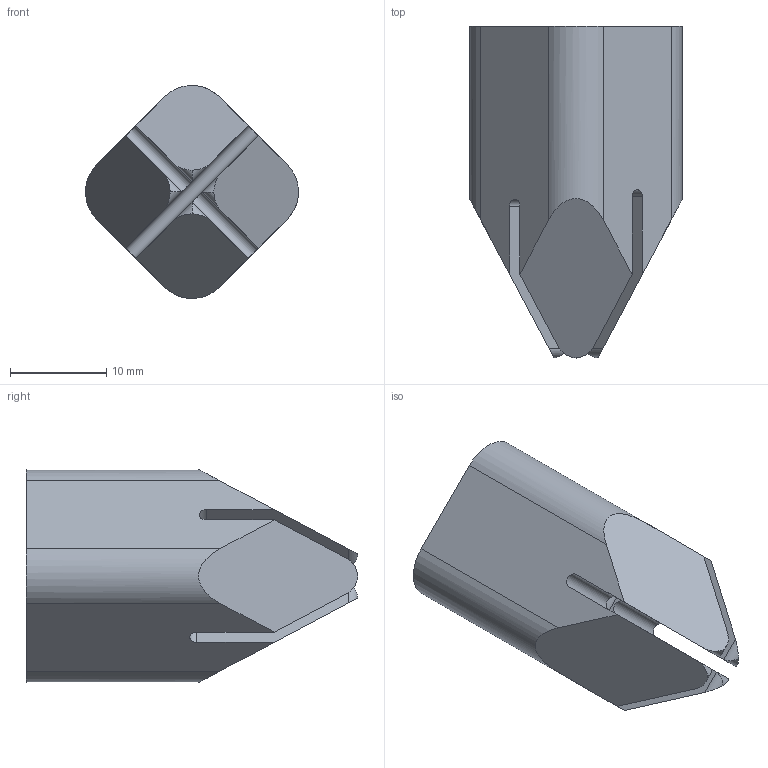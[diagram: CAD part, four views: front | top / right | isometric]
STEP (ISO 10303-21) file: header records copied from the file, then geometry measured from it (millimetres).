
FILE_DESCRIPTION (( 'STEP AP214' ), '1' );
FILE_NAME ('B-4B.STEP', '2019-12-04T08:18:43', ( '微软用户' ), ( '微软中国' ), 'SwSTEP 2.0', 'SolidWorks 2016', '' );
FILE_SCHEMA (( 'AUTOMOTIVE_DESIGN' ));
Length unit declared in the file: millimetre
Products named in the file (1): B-4B
Bounding box: 22.14 x 34.49 x 22.14 mm (x, y, z)
Volume: 7100 mm3; surface area: 3488.4 mm2
Topology: 1 solids, 1 shells, 36 faces, 92 edges, 60 vertices
Faces by surface type: cylinder 19, plane 17
Entity records: 1512 total; most frequent: CARTESIAN_POINT 237, ORIENTED_EDGE 184, DIRECTION 168, EDGE_CURVE 92, VERTEX_POINT 60, VECTOR 58, LINE 58, AXIS2_PLACEMENT_3D 55
